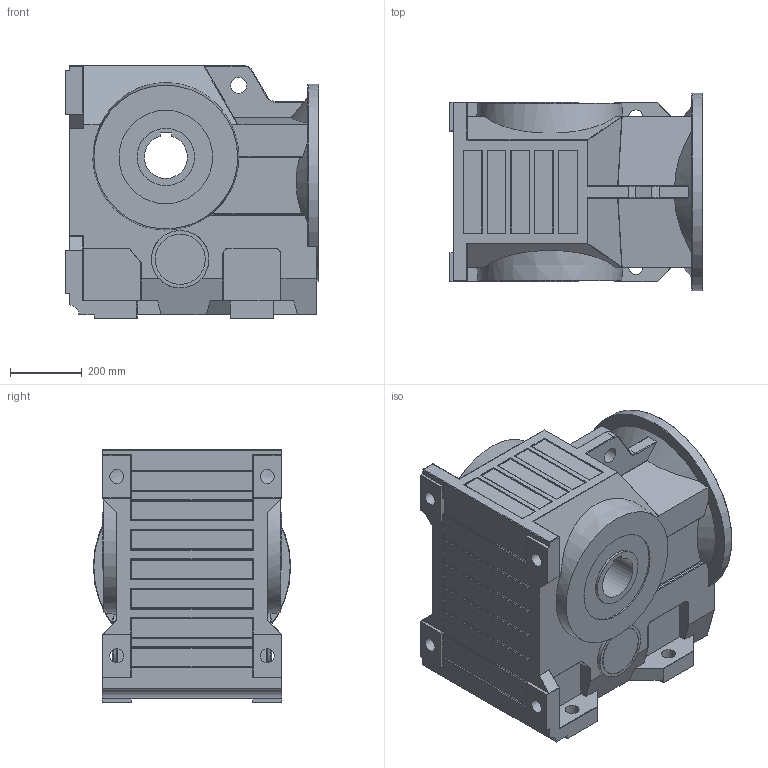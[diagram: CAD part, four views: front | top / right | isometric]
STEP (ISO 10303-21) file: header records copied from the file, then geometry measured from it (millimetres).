
FILE_DESCRIPTION((''),'2;1');
FILE_NAME('F:\PAWEŁ\ZLECENIA\2011 DualSystem\Przekładnie DK\001 Modele\DKAB150_\DK_150_STEP\DK_B_150.stp','2012-06-26T19:34:19',('admin'),(''),'Autodesk Inventor 2009','Autodesk Inventor 2009','');
FILE_SCHEMA(('AUTOMOTIVE_DESIGN { 1 0 10303 214 1 1 1 1 }'));
Length unit declared in the file: millimetre
Products named in the file (1): DK_B_150
Bounding box: 706 x 550 x 705 mm (x, y, z)
Volume: 183932357.6 mm3; surface area: 2758124.6 mm2
Topology: 1 solids, 1 shells, 542 faces, 1338 edges, 787 vertices
Faces by surface type: cylinder 230, plane 157, bspline 131, torus 12, sphere 8, cone 4
Full cylindrical faces by diameter (mm): 39 x4, 45 x1, 140 x1, 160 x2, 260.781 x1, 460 x1, 550 x1
Entity records: 20470 total; most frequent: CARTESIAN_POINT 8205, ORIENTED_EDGE 2558, DIRECTION 2505, EDGE_CURVE 1279, AXIS2_PLACEMENT_3D 915, VERTEX_POINT 779, VECTOR 675, LINE 675
